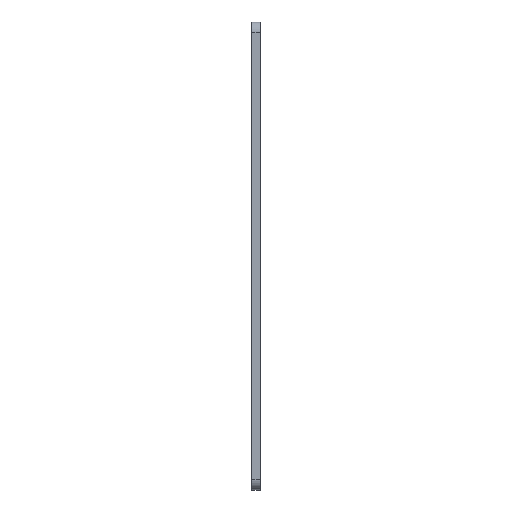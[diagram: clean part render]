
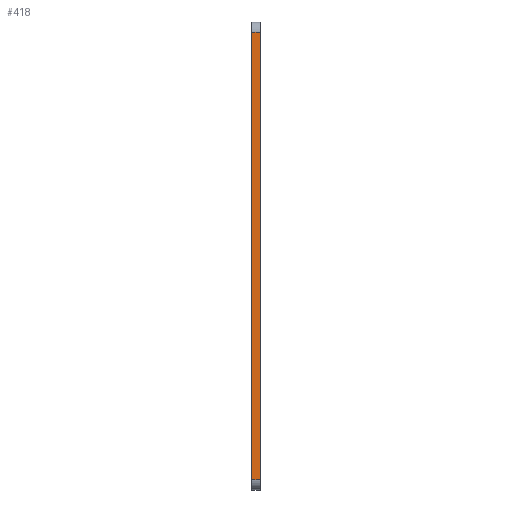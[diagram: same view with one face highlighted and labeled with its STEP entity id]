
A CAD part, left-side view. The second image highlights one B-rep face of the part: STEP entity #418.
In plain terms, the highlighted planar face has unit normal (-1, 0, 0).
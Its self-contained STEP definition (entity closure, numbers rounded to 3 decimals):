
#8 = AXIS2_PLACEMENT_3D ( 'NONE', #1672, #963, #1522 ) ;
#14 = EDGE_CURVE ( 'NONE', #804, #1335, #401, .T. ) ;
#51 = CARTESIAN_POINT ( 'NONE',  ( -228.5, 8., 231.5 ) ) ;
#221 = LINE ( 'NONE', #1209, #1492 ) ;
#229 = DIRECTION ( 'NONE',  ( 0., 0., 1. ) ) ;
#232 = VECTOR ( 'NONE', #1809, 1000. ) ;
#236 = VECTOR ( 'NONE', #337, 1000. ) ;
#291 = CARTESIAN_POINT ( 'NONE',  ( -228.5, 8., 231.5 ) ) ;
#337 = DIRECTION ( 'NONE',  ( 0., -1., 0. ) ) ;
#362 = DIRECTION ( 'NONE',  ( 0., 0., 1. ) ) ;
#401 = LINE ( 'NONE', #291, #232 ) ;
#415 = CARTESIAN_POINT ( 'NONE',  ( -228.5, 0., 231.5 ) ) ;
#418 = ADVANCED_FACE ( 'NONE', ( #426 ), #942, .F. ) ;
#426 = FACE_OUTER_BOUND ( 'NONE', #1662, .T. ) ;
#450 = LINE ( 'NONE', #1002, #236 ) ;
#511 = ORIENTED_EDGE ( 'NONE', *, *, #14, .T. ) ;
#561 = EDGE_CURVE ( 'NONE', #677, #1555, #450, .T. ) ;
#677 = VERTEX_POINT ( 'NONE', #1629 ) ;
#736 = ORIENTED_EDGE ( 'NONE', *, *, #1408, .F. ) ;
#804 = VERTEX_POINT ( 'NONE', #415 ) ;
#942 = PLANE ( 'NONE',  #8 ) ;
#963 = DIRECTION ( 'NONE',  ( 1., 0., 0. ) ) ;
#978 = CARTESIAN_POINT ( 'NONE',  ( -228.5, 0., -196.5 ) ) ;
#1002 = CARTESIAN_POINT ( 'NONE',  ( -228.5, 8., -196.5 ) ) ;
#1080 = EDGE_CURVE ( 'NONE', #1555, #804, #1474, .T. ) ;
#1209 = CARTESIAN_POINT ( 'NONE',  ( -228.5, 8., 241.5 ) ) ;
#1257 = ORIENTED_EDGE ( 'NONE', *, *, #1080, .T. ) ;
#1335 = VERTEX_POINT ( 'NONE', #51 ) ;
#1408 = EDGE_CURVE ( 'NONE', #677, #1335, #221, .T. ) ;
#1474 = LINE ( 'NONE', #1767, #1703 ) ;
#1492 = VECTOR ( 'NONE', #229, 1000. ) ;
#1522 = DIRECTION ( 'NONE',  ( 0., 0., -1. ) ) ;
#1555 = VERTEX_POINT ( 'NONE', #978 ) ;
#1629 = CARTESIAN_POINT ( 'NONE',  ( -228.5, 8., -196.5 ) ) ;
#1662 = EDGE_LOOP ( 'NONE', ( #1257, #511, #736, #1698 ) ) ;
#1672 = CARTESIAN_POINT ( 'NONE',  ( -228.5, 8., 241.5 ) ) ;
#1698 = ORIENTED_EDGE ( 'NONE', *, *, #561, .T. ) ;
#1703 = VECTOR ( 'NONE', #362, 1000. ) ;
#1767 = CARTESIAN_POINT ( 'NONE',  ( -228.5, 0., 241.5 ) ) ;
#1809 = DIRECTION ( 'NONE',  ( 0., 1., 0. ) ) ;
